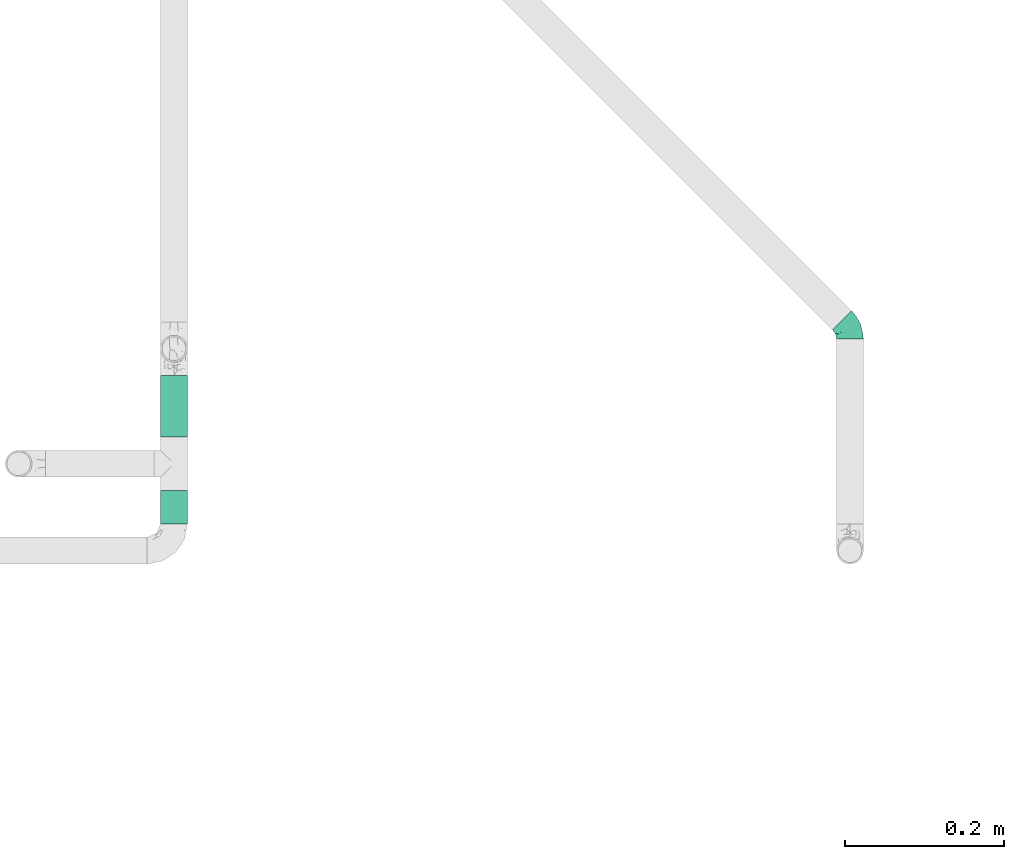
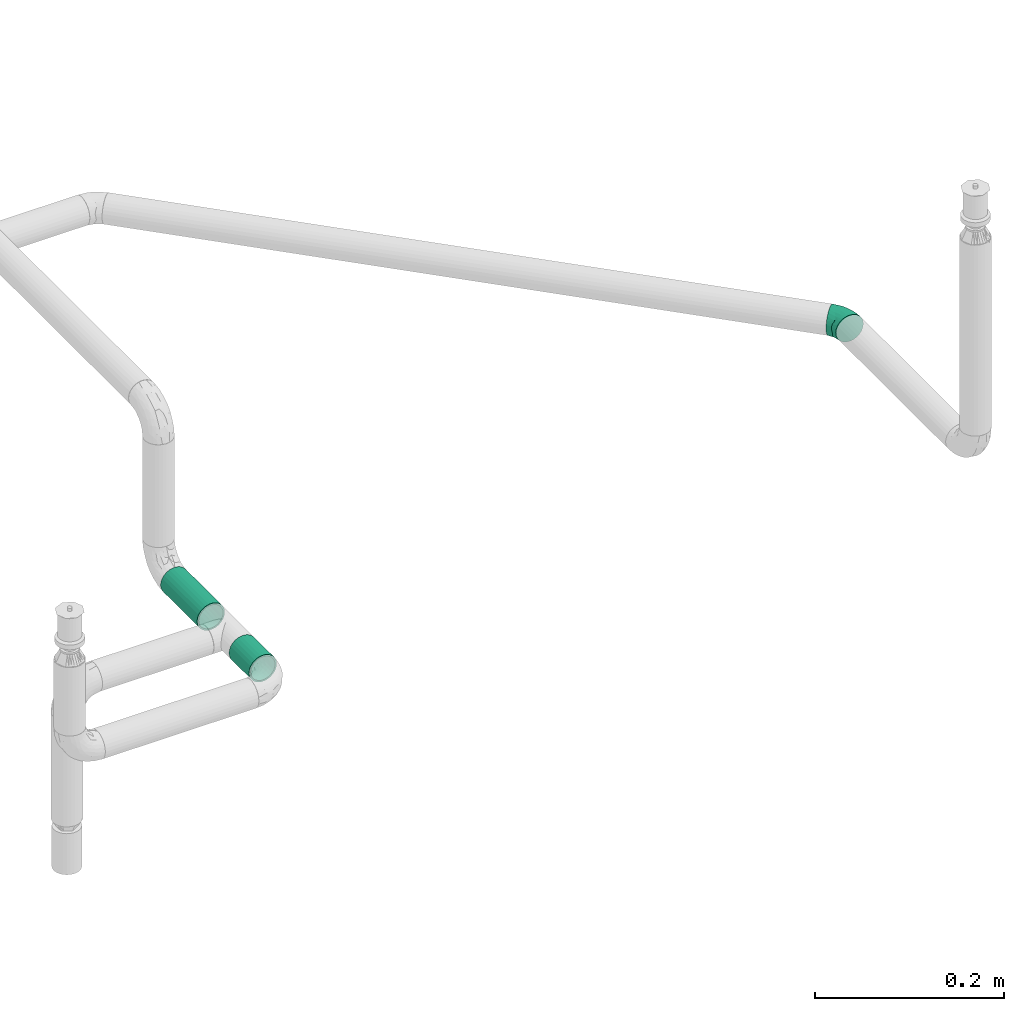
# One storey, part 39 of 157: 2 flow segments, 1 flow fitting.
"""IFC2X3 building model written with IfcOpenShell, lengths in millimetres."""

from ifc_helpers import new_model, entity, si_unit, converted_unit, derived_unit, direction, frame, origin_with_axes, origin_2d_with_axis, place, context, subcontext, project, spatial, hollow_circle, extrude, open_shell, surface_model, source, transform, mapped, type_object, element, save


model = new_model("IFC2X3")

# Units and contexts
model_context = context("Model", 3, precision=0.01, world=frame((0.0, 4.29681676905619e-09, 0.0)), true_north=direction((4.01073788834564e-13, 1.0)))
plan_context = context("Plan", 3, precision=0.01, world=frame((0.0, 4.29681676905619e-09, 0.0)), true_north=direction((4.01073788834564e-13, 1.0)))
body_context = subcontext(model_context, "Body", "Model", "MODEL_VIEW")
ifc_project = project(units=[converted_unit("PLANEANGLEUNIT", "DEGREE", entity("IfcPositiveLengthMeasure", 0.0174532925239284), si_unit("PLANEANGLEUNIT", "RADIAN"), dimensions=[0, 0, 0, 0, 0, 0, 0]), si_unit("AREAUNIT", "SQUARE_METRE"), si_unit("LENGTHUNIT", "METRE", prefix="MILLI"), si_unit("MASSUNIT", "GRAM", prefix="KILO"), si_unit("POWERUNIT", "WATT"), si_unit("PRESSUREUNIT", "PASCAL"), si_unit("FORCEUNIT", "NEWTON", prefix="KILO"), si_unit("ELECTRICCURRENTUNIT", "AMPERE"), si_unit("THERMODYNAMICTEMPERATUREUNIT", "DEGREE_CELSIUS"), si_unit("TIMEUNIT", "SECOND"), si_unit("VOLUMEUNIT", "CUBIC_METRE"), derived_unit("LINEARVELOCITYUNIT", [(si_unit("LENGTHUNIT", "METRE"), 1), (si_unit("TIMEUNIT", "SECOND"), -1)]), derived_unit("VOLUMETRICFLOWRATEUNIT", [(si_unit("VOLUMEUNIT", "CUBIC_METRE"), 1), (si_unit("TIMEUNIT", "SECOND"), -1)]), derived_unit("THERMALTRANSMITTANCEUNIT", [(si_unit("POWERUNIT", "WATT"), 1), (si_unit("THERMODYNAMICTEMPERATUREUNIT", "KELVIN"), -1), (si_unit("AREAUNIT", "SQUARE_METRE"), -1)])], contexts=[model_context, plan_context])

# Site, building, storey
site_placement = place(None, frame((0.0, -4.29681676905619e-09, 0.0), z_axis=(0.0, 0.0, 1.0), x_axis=(1.0, 0.0, 0.0)))
site = spatial("IfcSite", under=ifc_project, at=site_placement, CompositionType="ELEMENT")
building_placement = place(site_placement, frame((0.0, 4.29681676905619e-09, 0.0), z_axis=(0.0, 0.0, 1.0), x_axis=(1.0, 0.0, 0.0)))
building = spatial("IfcBuilding", under=site, at=building_placement, Name="mc-building", CompositionType="ELEMENT")
storey_placement = place(building_placement, frame((0.0, 0.0, 204000.0), z_axis=(0.0, 0.0, 1.0), x_axis=(1.0, 0.0, 0.0)))
storey = spatial("IfcBuildingStorey", under=building, at=storey_placement, Name="Nivå D", CompositionType="ELEMENT", Elevation=204000.0)

# Flow fitting
pipe_fitting_type = type_object("IfcPipeFittingType", Name="magi_pipe_fe_elbow_short_001", PredefinedType="BEND")
shared_shape_1 = source(origin_with_axes(), body_context, "Body", "SurfaceModel", [
    surface_model("IfcShellBasedSurfaceModel", [(-14.00042, 4.37404, -16.32415), (-14.00042, 0.0, -16.9), (-14.00042, 11.9501, -11.9501), (-14.00042, 8.45, -14.63583), (-14.00042, 16.32415, -4.37404), (-14.00042, 14.63583, -8.45), (-14.00042, -14.63583, -8.45), (-14.00042, -16.32415, -4.37404), (-14.00042, -8.45, 14.63583), (-14.00042, -11.9501, -11.9501), (-14.00042, -8.45, -14.63583), (-14.00042, -4.37404, -16.32415), (-14.00042, -16.9, 0.0), (-14.00042, -16.32415, 4.37404), (-14.00042, 11.9501, 11.9501), (-14.00042, 16.32415, 4.37404), (-14.00042, 14.63583, 8.45), (-14.00042, 4.37404, 16.32415), (-14.00042, 8.45, 14.63583), (-14.00042, -14.63583, 8.45), (-14.00042, -11.9501, 11.9501), (-14.00042, -4.37404, 16.32415), (-14.00042, 0.0, 16.9), (-14.00042, 16.9, 0.0), (1.44979, 18.34979, -11.9501), (9.89979, 9.89979, -16.9), (6.80688, 12.99271, -16.32415), (3.92474, 15.87484, -14.63583), (-0.4493, 20.24888, -8.45), (-1.64312, 21.4427, -4.37404), (20.24888, -0.4493, -8.45), (15.87484, 3.92474, -14.63583), (18.34979, 1.44979, -11.9501), (12.99271, 6.80688, -16.32415), (15.87484, 3.92474, 14.63583), (21.4427, -1.64312, -4.37404), (21.4427, -1.64312, 4.37404), (21.84989, -2.05031, 0.0), (-2.05031, 21.84989, 0.0), (1.44979, 18.34979, 11.9501), (-1.64312, 21.4427, 4.37404), (-0.4493, 20.24888, 8.45), (3.92474, 15.87484, 14.63583), (6.80688, 12.99271, 16.32415), (20.24888, -0.4493, 8.45), (18.34979, 1.44979, 11.9501), (9.89979, 9.89979, 16.9), (12.99271, 6.80688, 16.32415), (-6.69642, -6.19709, 15.44573), (-3.73886, -9.55149, 13.0407), (1.73525, -4.18927, 15.2328), (-5.45721, -12.9253, 9.8956), (12.9984, -5.28073, 9.8956), (-5.04389, -1.62717, 16.6761), (-6.49351, 7.03255, 15.79912), (-1.60742, 3.88065, 16.84061), (-8.46768, 2.34185, 16.79744), (0.50163, 10.15992, 15.77375), (3.05513, 7.9997, 16.65419), (4.30433, -10.39156, 9.41786), (9.11709, 0.35308, 15.44573), (-6.96204, 16.80785, 6.94325), (-7.45285, 14.17314, 10.66504), (-4.80048, 11.58938, 13.79725), (1.45487, -14.20736, 2.98752), (7.72591, -11.71416, 2.98752), (4.99742, -12.06485, 5.88094), (-4.29939, -14.97035, 0.0), (-4.76236, -15.7636, 3.07885), (16.28713, -6.46486, 3.25046), (12.48134, -8.19596, 5.86894), (-6.7692, 18.10883, 3.55089), (-3.03023, -14.62106, 5.86894), (4.71716, 2.41599, 16.6761), (9.3977, -4.11015, 13.0407), (5.40163, -13.04069, 0.0), (13.62576, -7.5455, 0.0), (-7.53307, 18.18644, 0.0), (2.83663, -6.84823, 13.47681), (-5.04389, -1.62717, -16.6761), (9.01737, -11.07487, -2.98752), (2.82012, -13.74621, -2.98752), (4.99742, -12.06485, -5.88094), (4.71716, 2.41599, -16.6761), (-7.53886, 6.82944, -15.77375), (-7.81695, 3.49634, -16.65419), (-4.75196, 15.29189, -10.66504), (9.3977, -4.11015, -13.0407), (-6.96204, 16.80785, -6.94325), (12.48135, -8.19596, -5.86894), (-8.01833, 17.59142, -3.55089), (-0.38116, 9.56437, -15.79912), (-6.9454, -16.08809, -3.25046), (-3.03023, -14.62106, -5.86894), (4.30433, -10.39156, -9.41786), (12.9984, -5.28073, -9.8956), (-5.45721, -12.9253, -9.8956), (-3.73886, -9.55149, -13.0407), (2.83663, -6.84823, -13.47681), (-6.69642, -6.19709, -15.44573), (1.73525, -4.18927, -15.2328), (9.11709, 0.35308, -15.44573), (-1.60742, 3.88065, -16.84061), (-4.80048, 11.58938, -13.79725), (14.51405, -7.77905, -3.07885), (4.33161, 7.64349, -16.79744)], [open_shell([[[0, 1, 2]], [[3, 0, 2]], [[4, 5, 2]], [[6, 2, 1]], [[2, 7, 8]], [[9, 6, 10]], [[1, 11, 10]], [[1, 10, 6]], [[6, 7, 2]], [[12, 13, 7]], [[4, 2, 14]], [[14, 15, 4]], [[16, 15, 14]], [[17, 18, 14]], [[2, 8, 14]], [[17, 14, 8]], [[19, 20, 13]], [[13, 20, 7]], [[21, 22, 8]], [[20, 8, 7]], [[8, 22, 17]], [[23, 4, 15]], [[24, 25, 26]], [[24, 26, 27]], [[24, 28, 29]], [[25, 24, 30]], [[30, 24, 29]], [[31, 30, 32]], [[31, 33, 25]], [[30, 31, 25]], [[30, 34, 35]], [[35, 36, 37]], [[38, 30, 29]], [[39, 38, 40]], [[39, 40, 41]], [[39, 42, 43]], [[38, 39, 34]], [[34, 39, 43]], [[44, 34, 45]], [[36, 35, 44]], [[34, 46, 47]], [[44, 35, 34]], [[46, 34, 43]], [[30, 38, 34]], [[48, 49, 50]], [[20, 51, 49]], [[8, 20, 49]], [[44, 45, 52]], [[22, 21, 53]], [[21, 8, 48]], [[18, 17, 54]], [[55, 56, 53]], [[22, 56, 17]], [[43, 57, 58]], [[49, 51, 59]], [[34, 47, 60]], [[61, 16, 62]], [[63, 14, 18]], [[64, 65, 66]], [[67, 64, 68]], [[69, 36, 70]], [[61, 71, 15]], [[19, 13, 72]], [[23, 15, 71]], [[15, 16, 61]], [[20, 19, 51]], [[54, 63, 18]], [[72, 66, 59]], [[12, 67, 68]], [[42, 39, 63]], [[46, 58, 73]], [[45, 34, 74]], [[41, 40, 61]], [[73, 47, 46]], [[64, 67, 75]], [[45, 74, 52]], [[55, 58, 57]], [[74, 34, 60]], [[19, 72, 51]], [[76, 69, 65]], [[36, 69, 37]], [[56, 54, 17]], [[71, 61, 40]], [[77, 71, 38]], [[52, 59, 70]], [[49, 78, 50]], [[50, 73, 53]], [[43, 42, 57]], [[50, 60, 73]], [[61, 62, 41]], [[55, 53, 73]], [[39, 41, 62]], [[63, 54, 57]], [[48, 53, 21]], [[16, 14, 62]], [[36, 44, 70]], [[59, 51, 72]], [[78, 59, 74]], [[59, 52, 74]], [[70, 44, 52]], [[14, 63, 62]], [[39, 62, 63]], [[63, 57, 42]], [[55, 57, 54]], [[49, 48, 8]], [[53, 48, 50]], [[73, 60, 47]], [[74, 60, 50]], [[73, 58, 55]], [[46, 43, 58]], [[53, 56, 22]], [[54, 56, 55]], [[64, 66, 72]], [[70, 59, 66]], [[64, 72, 68]], [[65, 64, 75]], [[76, 65, 75]], [[70, 66, 65]], [[72, 13, 68]], [[12, 68, 13]], [[59, 78, 49]], [[74, 50, 78]], [[38, 71, 40]], [[71, 77, 23]], [[65, 69, 70]], [[37, 69, 76]], [[11, 1, 79]], [[80, 81, 82]], [[25, 33, 83]], [[84, 85, 0]], [[5, 86, 2]], [[31, 32, 87]], [[88, 86, 5]], [[30, 35, 89]], [[4, 90, 88]], [[27, 26, 91]], [[92, 7, 93]], [[3, 84, 0]], [[67, 92, 81]], [[94, 95, 89]], [[7, 92, 12]], [[96, 9, 97]], [[9, 10, 97]], [[98, 94, 97]], [[7, 6, 93]], [[9, 96, 6]], [[99, 10, 11]], [[96, 94, 93]], [[100, 79, 83]], [[101, 83, 33]], [[23, 77, 90]], [[80, 76, 75]], [[38, 29, 90]], [[102, 83, 79]], [[24, 27, 103]], [[88, 5, 4]], [[28, 86, 88]], [[99, 97, 10]], [[91, 103, 27]], [[85, 79, 1]], [[103, 91, 84]], [[2, 103, 3]], [[76, 80, 104]], [[25, 105, 26]], [[101, 33, 31]], [[89, 82, 94]], [[32, 30, 95]], [[87, 100, 101]], [[87, 95, 94]], [[100, 99, 79]], [[37, 76, 104]], [[28, 24, 86]], [[105, 91, 26]], [[95, 87, 32]], [[87, 98, 100]], [[105, 83, 102]], [[102, 85, 84]], [[29, 88, 90]], [[30, 89, 95]], [[29, 28, 88]], [[94, 96, 97]], [[93, 6, 96]], [[24, 103, 86]], [[2, 86, 103]], [[103, 84, 3]], [[102, 84, 91]], [[79, 99, 11]], [[97, 99, 100]], [[87, 101, 31]], [[83, 101, 100]], [[79, 85, 102]], [[1, 0, 85]], [[83, 105, 25]], [[91, 105, 102]], [[80, 82, 89]], [[93, 94, 82]], [[80, 89, 104]], [[81, 80, 75]], [[67, 81, 75]], [[93, 82, 81]], [[89, 35, 104]], [[37, 104, 35]], [[94, 98, 87]], [[97, 100, 98]], [[23, 90, 4]], [[90, 77, 38]], [[81, 92, 93]], [[12, 92, 67]]])]),
])
flow_fitting_placement = place(storey_placement, frame((525545.79264, 408370.6375, 2880.0), z_axis=(0.0, 0.0, 1.0), x_axis=(0.0, 1.0, 0.0)))
element("IfcFlowFitting", 1, at=flow_fitting_placement, inside=storey, type_object=pipe_fitting_type, Name="magi_pipe_fe_elbow_short_001", context=body_context, shape_type="MappedRepresentation", body=[
    mapped(shared_shape_1, transform((0.0, 0.0, 0.0), scale=1.0)),
])

# Flow segments
pipe_segment_type = type_object("IfcPipeSegmentType", Name="Stålrør normaltykke", PredefinedType="RIGIDSEGMENT")
shared_shape_2 = source(origin_with_axes(), body_context, "Body", "SweptSolid", [
    extrude(hollow_circle(Radius=16.9, WallThickness=2.0, at=origin_2d_with_axis()), frame((0.0, 0.0, 0.0), z_axis=(1.0, 0.0, 0.0), x_axis=(0.0, 1.0, 0.0)), (0.0, 0.0, 1.0), 42.2),
])
flow_segment_1_placement = place(storey_placement, frame((524695.35, 408166.2, 2880.0), z_axis=(0.0, 0.0, 1.0), x_axis=(0.0, -1.0, 0.0)))
element("IfcFlowSegment", 2, at=flow_segment_1_placement, inside=storey, type_object=pipe_segment_type, Name="Stålrør normaltykke", context=body_context, shape_type="MappedRepresentation", body=[
    mapped(shared_shape_2, transform((0.0, 0.0, 0.0), scale=1.0)),
])
shared_shape_3 = source(origin_with_axes(), body_context, "Body", "SweptSolid", [
    extrude(hollow_circle(Radius=16.9, WallThickness=2.0, at=origin_2d_with_axis()), frame((0.0, 0.0, 0.0), z_axis=(1.0, 0.0, 0.0), x_axis=(0.0, 1.0, 0.0)), (0.0, 0.0, 1.0), 77.1),
])
flow_segment_2_placement = place(storey_placement, frame((524695.35, 408310.91922, 2880.0), z_axis=(0.0, 0.0, 1.0), x_axis=(0.0, -1.0, 0.0)))
element("IfcFlowSegment", 3, at=flow_segment_2_placement, inside=storey, type_object=pipe_segment_type, Name="Stålrør normaltykke", context=body_context, shape_type="MappedRepresentation", body=[
    mapped(shared_shape_3, transform((0.0, 0.0, 0.0), scale=1.0)),
])

save(model, "model.ifc")
